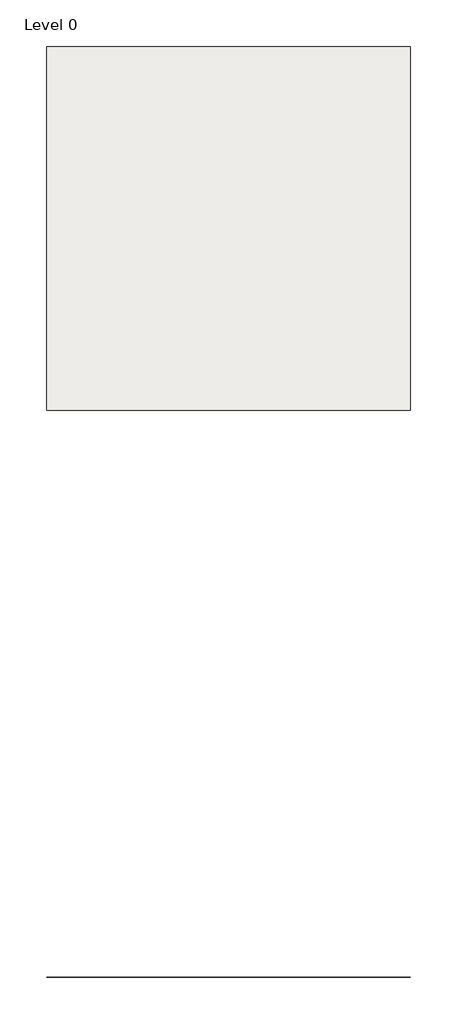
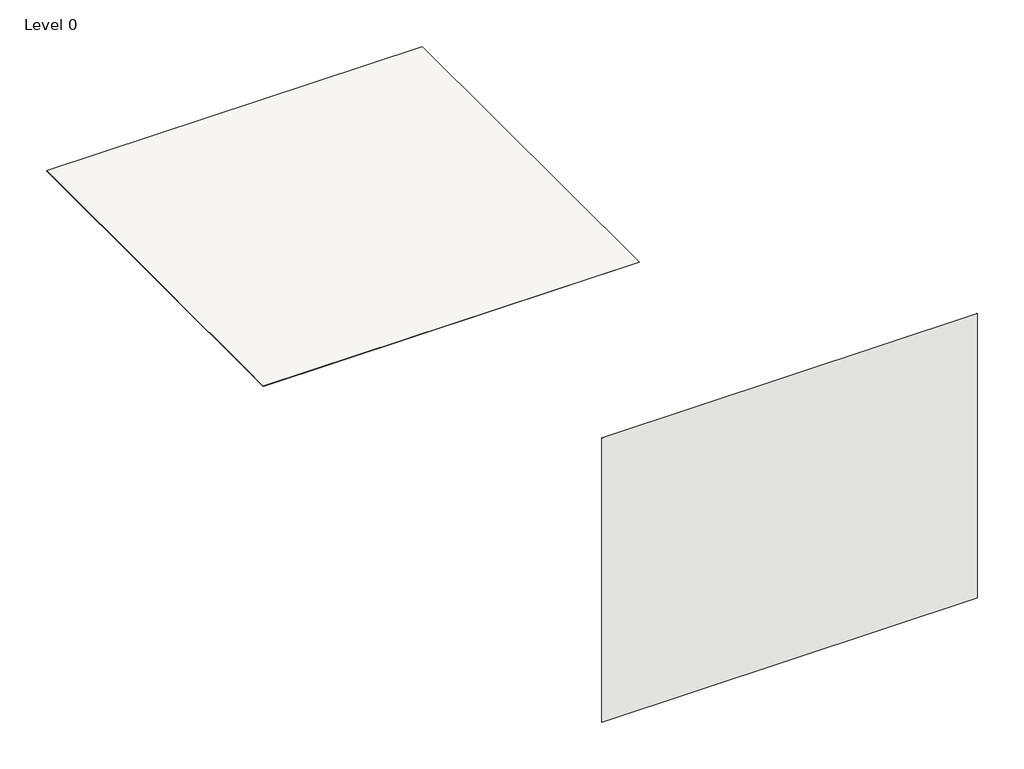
# One storey: 2 coverings.
"""IFC4 building model written with IfcOpenShell, lengths in millimetres."""

from ifc_helpers import new_model, si_unit, frame, origin, origin_with_axes, place, context, project, spatial, polyline, outline, extrude, element, save

model = new_model("IFC4")

# Units and contexts
model_context = context("Model", 3, world=origin())
ifc_project = project(units=[si_unit("LENGTHUNIT", "METRE", prefix="MILLI")], contexts=[model_context])

# Site, building, storey
site = spatial("IfcSite", under=ifc_project)
building = spatial("IfcBuilding", under=site)
storey = spatial("IfcBuildingStorey", under=building, Name="Level 0", Elevation=0.0)

# Coverings
placement = place(None, origin())
element("IfcCovering", 1, ObjectType="NBS_DeltaMembraneSystemsLtd_ConcreteRepairMortars_KosterSewerAndShaftMortar-WaterproofCement-basedRender", at=placement, inside=storey, context=model_context, shape_type="SweptSolid", body=[
    extrude(outline(polyline([(-976.0, -11523.6), (1524.0, -11523.6), (1524.0, -11524.4), (-976.0, -11524.4), (-976.0, -11523.6)])), origin_with_axes(), (0.0, 0.0, 1.0), 2000.0),
])
element("IfcCovering", 2, ObjectType="NBS_DeltaMembraneSystemsLtd_ConcreteRepairMortars_KosterSewerAndShaftMortar-WaterproofCement-basedRender", at=placement, inside=storey, context=model_context, shape_type="SweptSolid", body=[
    extrude(outline(polyline([(-976.0, -7624.0415064), (-976.0, -5124.0415064), (1524.0, -5124.0415064), (1524.0, -7624.0415064), (-976.0, -7624.0415064)])), frame((0.0, 0.0, -0.8), z_axis=(0.0, 0.0, 1.0), x_axis=(1.0, 0.0, 0.0)), (0.0, 0.0, 1.0), 0.8),
])

save(model, "model.ifc")
